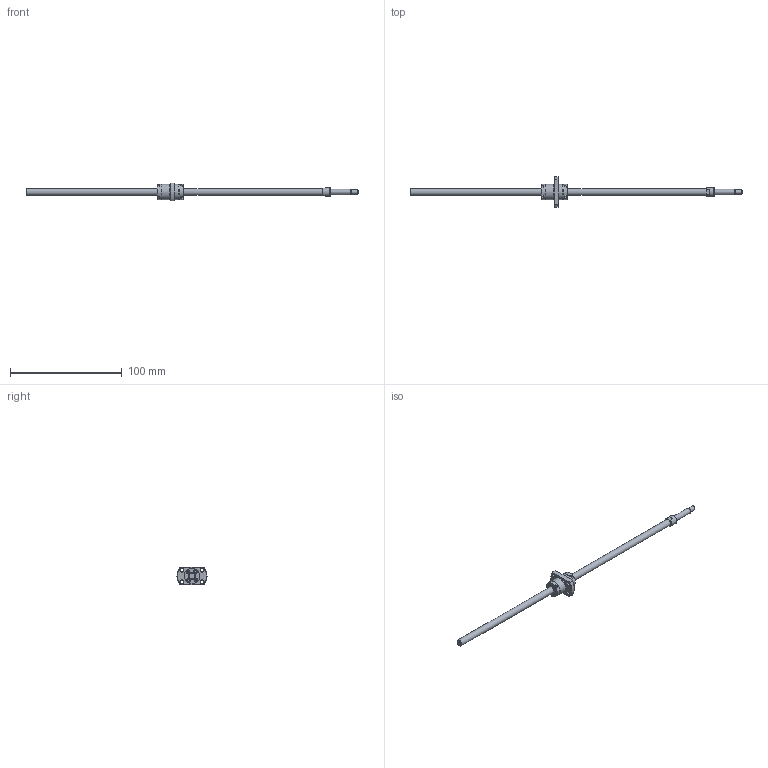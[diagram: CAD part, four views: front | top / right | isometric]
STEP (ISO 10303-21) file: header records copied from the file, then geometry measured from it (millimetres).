
FILE_DESCRIPTION(/* description */ ('STEP AP214'),/* implementation_level */ '2;1');
FILE_NAME(/* name */ 'SRT0610-261R297C7A0X(117.5Processing)',/* time_stamp */ '2026-08-04T18:46:41+02:00',/* author */ ('License CC BY-ND 4.0'),/* organization */ ('CADENAS'),/* preprocessor_version */ 'ST-DEVELOPER v20',/* originating_system */ 'PARTsolutions',/* authorisation */ ' ');
FILE_SCHEMA (('AUTOMOTIVE_DESIGN {1 0 10303 214 3 1 1}'));
Length unit declared in the file: millimetre
Products named in the file (3): SRT0610-261R297C7A0X(117.5Processing); SRT0610-261R335ACt7Processing26Shaft; SRT0610Nut
Assembly tree (2 placements, depth 2):
  SRT0610-261R297C7A0X(117.5Processing)
    SRT0610-261R335ACt7Processing26Shaft
    SRT0610Nut
Bounding box: 297 x 27 x 16 mm (x, y, z)
Volume: 11892.9 mm3; surface area: 8287 mm2
Topology: 2 solids, 2 shells, 149 faces, 356 edges, 235 vertices
Faces by surface type: plane 106, cylinder 32, cone 10, torus 1
Full cylindrical faces by diameter (mm): 3 x8, 3.4 x4, 4 x1, 5 x1, 6 x2, 8 x1, 13.6 x1, 13.8 x2, 14 x2
Entity records: 4237 total; most frequent: CARTESIAN_POINT 732, DIRECTION 712, ORIENTED_EDGE 648, EDGE_CURVE 324, AXIS2_PLACEMENT_3D 244, VERTEX_POINT 232, LINE 224, VECTOR 224
